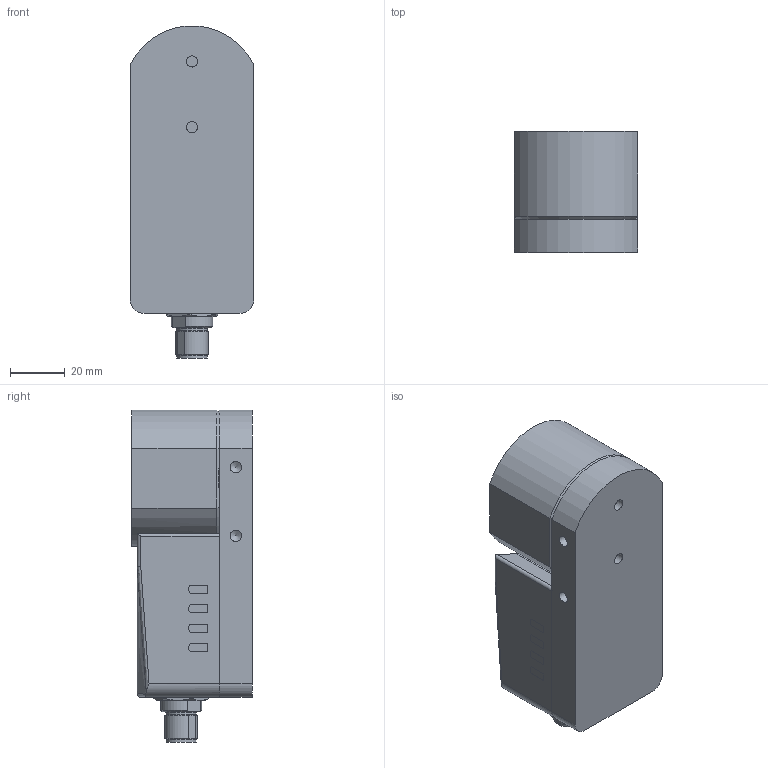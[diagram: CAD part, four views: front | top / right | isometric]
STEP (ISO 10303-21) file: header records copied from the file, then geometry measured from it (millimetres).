
FILE_DESCRIPTION((''),'2;1');
FILE_NAME('E:\Vault Daten\Projektordner\Sensoren\PSENcm\Konstruktionszeichnungen\Kundendaten\H302849-A_S_105x45x44mm.stp','2011-09-20T12:18:33',('pschmucki'),(''),'Autodesk Inventor 2010','Autodesk Inventor 2010','');
FILE_SCHEMA(('CONFIG_CONTROL_DESIGN'));
Length unit declared in the file: millimetre
Products named in the file (1): H302849_PSENsl_0_5_Sensor_Konturvereinfachung_1
Bounding box: 45 x 44 x 121.16 mm (x, y, z)
Volume: 187860.1 mm3; surface area: 25913.2 mm2
Topology: 1 solids, 3 shells, 353 faces, 887 edges, 554 vertices
Faces by surface type: plane 161, cylinder 106, bspline 48, cone 29, torus 9
Full cylindrical faces by diameter (mm): 2.134 x1, 4.134 x2, 11 x2, 42.527 x1
Entity records: 11541 total; most frequent: CARTESIAN_POINT 3576, ORIENTED_EDGE 1706, DIRECTION 1537, EDGE_CURVE 853, AXIS2_PLACEMENT_3D 552, VERTEX_POINT 541, VECTOR 433, LINE 433
